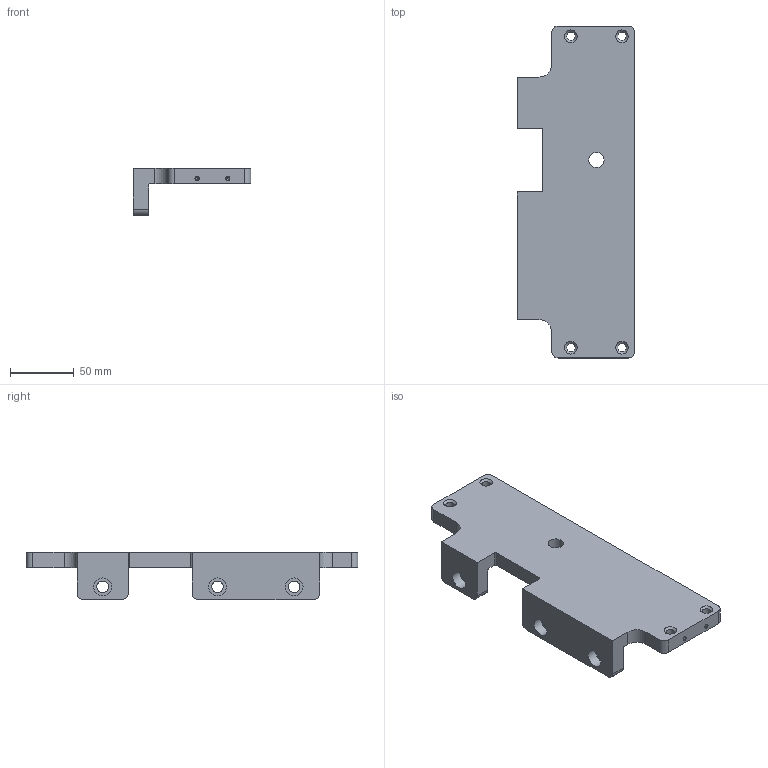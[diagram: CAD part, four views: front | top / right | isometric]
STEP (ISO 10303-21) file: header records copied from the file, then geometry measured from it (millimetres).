
FILE_DESCRIPTION(('STEP AP203'), '1');
FILE_NAME('ÒÏÏÔ1801.01.03.00.008 - Ðåáðî ïëîùàäêè', '', ('UNSPECIFIED'), ('UNSPECIFIED'), 'C3D Converter', 'C3D Toolkit', '');
FILE_SCHEMA(('CONFIG_CONTROL_DESIGN'));
Length unit declared in the file: millimetre
Products named in the file (1): ТППФ1801.01.03.00.008
Bounding box: 92 x 260 x 37 mm (x, y, z)
Volume: 286719.5 mm3; surface area: 60815.3 mm2
Topology: 1 solids, 1 shells, 56 faces, 145 edges, 94 vertices
Faces by surface type: cylinder 27, plane 21, cone 8
Full cylindrical faces by diameter (mm): 2.459 x2, 6.647 x4, 9 x3, 12 x1, 14 x3
Entity records: 2122 total; most frequent: DIRECTION 296, CARTESIAN_POINT 271, ORIENTED_EDGE 244, EDGE_CURVE 122, AXIS2_PLACEMENT_3D 117, EDGE_LOOP 96, VERTEX_POINT 92, LINE 62
